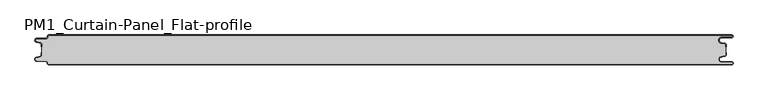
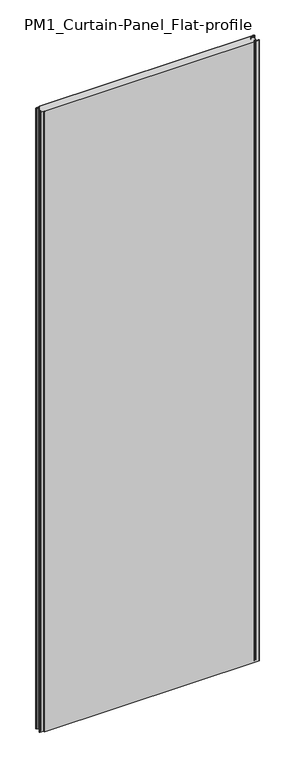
"""IFC4 building model written with IfcOpenShell, lengths in millimetres: plate geometry, PM1_Curtain-Panel_Flat-profile : ACH_PM1_Acoustic-Sectioning-Panel_50M."""

import ifcopenshell
import ifcopenshell.guid

model = None  # the IFC model being written
_history = None  # IfcOwnerHistory: only IFC2X3 demands one
_inside = {}  # id of a spatial element -> (the spatial element, [elements in it])
_under = {}  # id of a project, library or spatial element -> (it, [spatial elements below it])
_declared = {}  # id of a project -> (the project, [libraries it declares])
_typed = {}  # id of a type object -> (the type object, [elements of that type])
_made_of = {}  # id of a material, layer set ... -> (it, [elements and type objects made of it])


def new_model(schema):
    """Start an empty IFC model of exactly this schema.

    Asked for "IFC4X3", IfcOpenShell would pick the latest addendum, in which some entities
    have other attributes; the version numbers below select the first issue.
    IFC2X3 requires an IfcOwnerHistory on every rooted entity: one is made here for all.
    """
    global model, _history
    if schema == "IFC4X3":
        model = ifcopenshell.file(schema_version=(4, 3, 0, 0))
    else:
        model = ifcopenshell.file(schema=schema)
    _inside.clear()
    _under.clear()
    _declared.clear()
    _typed.clear()
    _made_of.clear()
    _history = None
    if model.schema == "IFC2X3":
        org = make("IfcOrganization", Name="unknown")
        user = make(
            "IfcPersonAndOrganization",
            ThePerson=make("IfcPerson", FamilyName="unknown"),
            TheOrganization=org,
        )
        app = make(
            "IfcApplication",
            ApplicationDeveloper=org,
            Version="unknown",
            ApplicationFullName="unknown",
            ApplicationIdentifier="unknown",
        )
        _history = make(
            "IfcOwnerHistory",
            OwningUser=user,
            OwningApplication=app,
            ChangeAction="ADDED",
            CreationDate=0,
        )
    return model


def make(cls, **values):
    """One entity of the class cls with the attributes given. An attribute that is None is left unset."""
    return model.create_entity(
        cls, **{name: value for name, value in values.items() if value is not None}
    )


def rooted(cls, **values):
    """An entity with a GlobalId (a new one), such as an element, a storey or a relation."""
    return make(cls, GlobalId=ifcopenshell.guid.new(), OwnerHistory=_history, **values)


def si_unit(unit_type, name, prefix=None):
    """IfcSIUnit, for example si_unit("LENGTHUNIT", "METRE", prefix="MILLI")."""
    return make("IfcSIUnit", UnitType=unit_type, Prefix=prefix, Name=name)


def assignment(units):
    """IfcUnitAssignment: the units of a project."""
    return None if units is None else make("IfcUnitAssignment", Units=units)


def point(xyz):
    """IfcCartesianPoint."""
    return None if xyz is None else make("IfcCartesianPoint", Coordinates=xyz)


def direction(xyz):
    """IfcDirection."""
    return None if xyz is None else make("IfcDirection", DirectionRatios=xyz)


def frame(location, z_axis=None, x_axis=None):
    """IfcAxis2Placement3D, a coordinate frame: its origin and axes. An axis left out is left unset."""
    return make(
        "IfcAxis2Placement3D",
        Location=point(location),
        Axis=direction(z_axis),
        RefDirection=direction(x_axis),
    )


def frame_2d(location, x_axis=None):
    """IfcAxis2Placement2D, a coordinate frame in the plane: its origin and x axis."""
    return make(
        "IfcAxis2Placement2D", Location=point(location), RefDirection=direction(x_axis)
    )


def origin():
    """The frame at (0, 0, 0) with its axes left unset."""
    return frame((0.0, 0.0, 0.0))


def origin_with_axes():
    """The frame at (0, 0, 0) with the z axis (0, 0, 1) and the x axis (1, 0, 0) written out."""
    return frame((0.0, 0.0, 0.0), z_axis=(0.0, 0.0, 1.0), x_axis=(1.0, 0.0, 0.0))


def place(relative_to, where):
    """IfcLocalPlacement: puts the frame where relative to a parent placement (None: the world)."""
    return make(
        "IfcLocalPlacement", PlacementRelTo=relative_to, RelativePlacement=where
    )


def context(
    kind, dimensions, precision=None, world=None, true_north=None, identifier=None
):
    """IfcGeometricRepresentationContext, for example the 3D "Model" context."""
    return make(
        "IfcGeometricRepresentationContext",
        ContextIdentifier=identifier,
        ContextType=kind,
        CoordinateSpaceDimension=dimensions,
        Precision=precision,
        WorldCoordinateSystem=world,
        TrueNorth=true_north,
    )


def project(units=None, contexts=None):
    """IfcProject with its units and contexts."""
    return rooted(
        "IfcProject",
        Name="project",
        RepresentationContexts=contexts,
        UnitsInContext=assignment(units),
    )


def spatial(cls, under=None, at=None, **own):
    """A site, building, storey or space (cls), placed at a placement, below another one or the project."""
    s = rooted(cls, ObjectPlacement=at, **own)
    if under is not None:
        _under.setdefault(under.id(), (under, []))[1].append(s)
    return s


def polyline(points):
    """IfcPolyline through the points."""
    return make("IfcPolyline", Points=[point(p) for p in points])


def circle_curve(where, radius):
    """IfcCircle in the frame where."""
    return make("IfcCircle", Position=where, Radius=radius)


def trimmed(basis, trim1, trim2, sense, master):
    """IfcTrimmedCurve: the piece of a basis curve between two trims."""
    return make(
        "IfcTrimmedCurve",
        BasisCurve=basis,
        Trim1=trim1,
        Trim2=trim2,
        SenseAgreement=sense,
        MasterRepresentation=master,
    )


def segment(curve, same_sense, transition):
    """IfcCompositeCurveSegment."""
    return make(
        "IfcCompositeCurveSegment",
        Transition=transition,
        SameSense=same_sense,
        ParentCurve=curve,
    )


def composite_curve(segments, self_intersect=None):
    """IfcCompositeCurve: segments joined end to end."""
    return make("IfcCompositeCurve", Segments=segments, SelfIntersect=self_intersect)


def outline(outer, holes=None, kind="AREA"):
    """IfcArbitraryClosedProfileDef: a profile drawn as a closed curve; with holes, ...WithVoids."""
    if holes is None:
        return make("IfcArbitraryClosedProfileDef", ProfileType=kind, OuterCurve=outer)
    return make(
        "IfcArbitraryProfileDefWithVoids",
        ProfileType=kind,
        OuterCurve=outer,
        InnerCurves=holes,
    )


def extrude(swept, where, along, depth):
    """IfcExtrudedAreaSolid: the profile swept, set in the frame where, extruded along a direction by depth."""
    return make(
        "IfcExtrudedAreaSolid",
        SweptArea=swept,
        Position=where,
        ExtrudedDirection=direction(along),
        Depth=depth,
    )


def shape(context_of_items, identifier, shape_type, items):
    """IfcShapeRepresentation: the items that make up one representation, for example the "Body"."""
    return make(
        "IfcShapeRepresentation",
        ContextOfItems=context_of_items,
        RepresentationIdentifier=identifier,
        RepresentationType=shape_type,
        Items=items,
    )


def source(mapping_origin, context_of_items, identifier, shape_type, items):
    """IfcRepresentationMap: a shape defined once, which mapped items show again and again."""
    return make(
        "IfcRepresentationMap",
        MappingOrigin=mapping_origin,
        MappedRepresentation=shape(context_of_items, identifier, shape_type, items),
    )


def transform(
    local_origin,
    x_axis=None,
    y_axis=None,
    z_axis=None,
    scale=None,
    scale2=None,
    scale3=None,
    uniform=True,
):
    """IfcCartesianTransformationOperator3D, or its non-uniform kind. x_axis, y_axis, z_axis: its Axis1, 2, 3."""
    if uniform:
        return make(
            "IfcCartesianTransformationOperator3D",
            Axis1=direction(x_axis),
            Axis2=direction(y_axis),
            LocalOrigin=point(local_origin),
            Scale=scale,
            Axis3=direction(z_axis),
        )
    return make(
        "IfcCartesianTransformationOperator3DnonUniform",
        Axis1=direction(x_axis),
        Axis2=direction(y_axis),
        LocalOrigin=point(local_origin),
        Scale=scale,
        Axis3=direction(z_axis),
        Scale2=scale2,
        Scale3=scale3,
    )


def mapped(mapping_source, mapping_target):
    """IfcMappedItem: shows the shape of a source again, moved by a transform."""
    return make(
        "IfcMappedItem", MappingSource=mapping_source, MappingTarget=mapping_target
    )


def made_of(thing, what):
    """Note that an element or type object is made of a material, layer set ...; save() writes the relation."""
    if what is not None:
        _made_of.setdefault(what.id(), (what, []))[1].append(thing)
    return thing


def element(
    cls,
    number,
    at=None,
    inside=None,
    cuts=None,
    type_object=None,
    material=None,
    context=None,
    identifier="Body",
    shape_type=None,
    held_by="IfcProductDefinitionShape",
    body=None,
    shapes=None,
    **own,
):
    """One element of the class cls, such as IfcWall. Its Tag is "e" and its number.

    at: its placement. inside: the storey or other place that contains it. cuts: it is an
    opening in that element (IfcRelVoidsElement). A single representation is given by context,
    identifier, shape_type and body (its items); several are given by shapes. held_by: the class
    of the entity that holds the representations. save() writes the other relations.
    """
    e = rooted(cls, Tag="e%d" % number, ObjectPlacement=at, **own)
    if body is not None:
        shapes = [shape(context, identifier, shape_type, body)]
    if shapes is not None:
        e.Representation = make(held_by, Representations=shapes)
    if inside is not None:
        _inside.setdefault(inside.id(), (inside, []))[1].append(e)
    if cuts is not None:
        rooted(
            "IfcRelVoidsElement", RelatingBuildingElement=cuts, RelatedOpeningElement=e
        )
    if type_object is not None:
        _typed.setdefault(type_object.id(), (type_object, []))[1].append(e)
    return made_of(e, material)


def aggregate(whole, parts):
    """IfcRelAggregates: a whole, such as a stair, and the parts it consists of."""
    return rooted("IfcRelAggregates", RelatingObject=whole, RelatedObjects=parts)


def save(model, path):
    """Write the relations noted so far, then the file.

    IfcRelAggregates (storeys below a building ...), IfcRelContainedInSpatialStructure (elements
    in a storey), IfcRelDefinesByType, IfcRelAssociatesMaterial and IfcRelDeclares: one each for
    every whole, place, type object, material and project.
    """
    for whole, parts in _under.values():
        aggregate(whole, parts)
    for where, things in _inside.values():
        rooted(
            "IfcRelContainedInSpatialStructure",
            RelatedElements=things,
            RelatingStructure=where,
        )
    for kind, things in _typed.values():
        rooted("IfcRelDefinesByType", RelatedObjects=things, RelatingType=kind)
    for what, things in _made_of.values():
        rooted("IfcRelAssociatesMaterial", RelatedObjects=things, RelatingMaterial=what)
    for by, libraries in _declared.values():
        rooted("IfcRelDeclares", RelatingContext=by, RelatedDefinitions=libraries)
    model.write(path)


def plane_surface(at):
    """IfcPlane: the flat surface through the origin of the frame at, square to its z axis."""
    return make("IfcPlane", Position=at)


def cylinder_surface(at, radius):
    """IfcCylindricalSurface: all points at the distance radius from the z axis of the frame at."""
    return make("IfcCylindricalSurface", Position=at, Radius=radius)


def revolved_surface(curve, axis_point, axis_direction):
    """IfcSurfaceOfRevolution: the curve turned about the line through axis_point along axis_direction."""
    return make(
        "IfcSurfaceOfRevolution",
        SweptCurve=make("IfcArbitraryOpenProfileDef", ProfileType="CURVE", Curve=curve),
        AxisPosition=make("IfcAxis1Placement", Location=point(axis_point), Axis=direction(axis_direction)),
    )


def advanced_brep(points, edges, surfaces, faces):
    """IfcAdvancedBrep: a solid bounded by faces that lie on surfaces and meet in shared edges.

    An edge is (start, end): straight between two places in points (the first is 0);
    or (start, end, curve); or (start, end, curve, False) where it runs against its curve.
    A face is (place in surfaces, loops), or (place, loops, False) where it looks against
    its surface's normal. A loop lists edges by number (the first is 1), with a minus sign
    where the edge is run from its end to its start. The first loop is the outer one.
    """
    corners = [point(p) for p in points]
    vertices = [make("IfcVertexPoint", VertexGeometry=c) for c in corners]
    made = []
    for start, end, *more in edges:
        made.append(
            make(
                "IfcEdgeCurve",
                EdgeStart=vertices[start],
                EdgeEnd=vertices[end],
                EdgeGeometry=more[0] if more else make("IfcPolyline", Points=[corners[start], corners[end]]),
                SameSense=more[1] if len(more) > 1 else True,
            )
        )
    hull = []
    for where, loops, *sense in faces:
        bounds = []
        for j, loop in enumerate(loops):
            ring = [make("IfcOrientedEdge", EdgeElement=made[abs(k) - 1], Orientation=k > 0) for k in loop]
            bounds.append(
                make(
                    "IfcFaceOuterBound" if j == 0 else "IfcFaceBound",
                    Bound=make("IfcEdgeLoop", EdgeList=ring),
                    Orientation=True,
                )
            )
        hull.append(make("IfcAdvancedFace", Bounds=bounds, FaceSurface=surfaces[where], SameSense=sense[0] if sense else True))
    return make("IfcAdvancedBrep", Outer=make("IfcClosedShell", CfsFaces=hull))


def pm1_curtain_panel_flat_profile_7617cffb(model_context):
    return source(origin(), model_context, "Body", "SolidModel", [
        advanced_brep(
        [(583.1, 0.0, 3500.0), (-562.4, 0.0, 3500.0), (-564.4, -2.0, 3500.0), (-564.4, -3.4, 3500.0), (-566.4, -5.4, 3500.0), (-581.9, -5.4, 3500.0), (-582.7098239, -12.5077322, 3500.0), (-576.5500979, -13.929817, 3500.0), (-575.0, -15.878557, 3500.0), (-575.0, -20.0, 3500.0), (-574.2, -20.0, 3500.0), (-574.2, -15.878557, 3500.0), (-576.370137, -13.1503208, 3500.0), (-582.529863, -11.728236, 3500.0), (-581.9, -6.2, 3500.0), (-566.4, -6.2, 3500.0), (-563.6, -3.4, 3500.0), (-563.6, -2.0, 3500.0), (-562.4, -0.8, 3500.0), (583.1, -0.8, 3500.0), (583.1, -4.2, 3500.0), (566.1, -4.2, 3500.0), (565.266489, -13.7270773, 3500.0), (571.7125666, -14.8636942, 3500.0), (573.2, -16.636348, 3500.0), (573.2, -20.0, 3500.0), (574.0, -20.0, 3500.0), (574.0, -16.636348, 3500.0), (571.8514851, -14.0758478, 3500.0), (565.4054075, -12.9392309, 3500.0), (566.1, -5.0, 3500.0), (583.1, -5.0, 3500.0), (585.6, -2.5, 3500.0), (-562.4, 0.0, 0.0), (583.1, 0.0, 0.0), (585.6, -2.5, 0.0), (583.1, -5.0, 0.0), (566.1, -5.0, 0.0), (565.4054075, -12.939231, 0.0), (571.8514851, -14.075848, 0.0), (574.0, -16.636348, 0.0), (574.0, -20.0, 0.0), (573.2, -20.0, 0.0), (573.2, -16.636348, 0.0), (571.7125666, -14.863694, 0.0), (565.266489, -13.7270771, 0.0), (566.1, -4.2, 0.0), (583.1, -4.2, 0.0), (583.1, -0.8, 0.0), (-562.4, -0.8, 0.0), (-563.6, -2.0, 0.0), (-563.6, -3.4, 0.0), (-566.4, -6.2, 0.0), (-581.9, -6.2, 0.0), (-582.529863, -11.7282362, 0.0), (-576.370137, -13.150321, 0.0), (-574.2, -15.878557, 0.0), (-574.2, -20.0, 0.0), (-575.0, -20.0, 0.0), (-575.0, -15.878557, 0.0), (-576.5500978, -13.9298169, 0.0), (-582.7098239, -12.507732, 0.0), (-581.9, -5.4, 0.0), (-566.4, -5.4, 0.0), (-564.4, -3.4, 0.0), (-564.4, -2.0, 0.0)],
        [
            (0, 1),
            (1, 2, circle_curve(frame((-562.4, -2.0, 3500.0), z_axis=(0.0, 0.0, 1.0), x_axis=(1.0, 0.0, 0.0)), 2.0)),
            (2, 3),
            (3, 4, circle_curve(frame((-566.4, -3.4, 3500.0), z_axis=(0.0, 0.0, -1.0), x_axis=(1.0, 0.0, 0.0)), 2.0)),
            (4, 5),
            (5, 6, circle_curve(frame((-581.9, -9.0, 3500.0), z_axis=(0.0, 0.0, 1.0), x_axis=(1.0, 0.0, 0.0)), 3.6)),
            (6, 7),
            (7, 8, circle_curve(frame((-577.0, -15.878557, 3500.0), z_axis=(0.0, 0.0, -1.0), x_axis=(1.0, 0.0, 0.0)), 2.0)),
            (8, 9),
            (9, 10),
            (10, 11),
            (11, 12, circle_curve(frame((-577.0, -15.878557, 3500.0), z_axis=(0.0, 0.0, 1.0), x_axis=(1.0, 0.0, 0.0)), 2.8)),
            (12, 13),
            (13, 14, circle_curve(frame((-581.9, -9.0, 3500.0), z_axis=(0.0, 0.0, -1.0), x_axis=(1.0, 0.0, 0.0)), 2.8)),
            (14, 15),
            (15, 16, circle_curve(frame((-566.4, -3.4, 3500.0), z_axis=(0.0, 0.0, 1.0), x_axis=(1.0, 0.0, 0.0)), 2.8)),
            (16, 17),
            (17, 18, circle_curve(frame((-562.4, -2.0, 3500.0), z_axis=(0.0, 0.0, -1.0), x_axis=(1.0, 0.0, 0.0)), 1.2)),
            (18, 19),
            (19, 20, circle_curve(frame((583.1, -2.5, 3500.0), z_axis=(0.0, 0.0, -1.0), x_axis=(1.0, 0.0, 0.0)), 1.7)),
            (20, 21),
            (21, 22, circle_curve(frame((566.1, -9.0, 3500.0), z_axis=(0.0, 0.0, 1.0), x_axis=(1.0, 0.0, 0.0)), 4.8)),
            (22, 23),
            (23, 24, circle_curve(frame((571.4, -16.636348, 3500.0), z_axis=(0.0, 0.0, -1.0), x_axis=(1.0, 0.0, 0.0)), 1.8)),
            (24, 25),
            (25, 26),
            (26, 27),
            (27, 28, circle_curve(frame((571.4, -16.636348, 3500.0), z_axis=(0.0, 0.0, 1.0), x_axis=(1.0, 0.0, 0.0)), 2.6)),
            (28, 29),
            (29, 30, circle_curve(frame((566.1, -9.0, 3500.0), z_axis=(0.0, 0.0, -1.0), x_axis=(1.0, 0.0, 0.0)), 4.0)),
            (30, 31),
            (31, 32, circle_curve(frame((583.1, -2.5, 3500.0), z_axis=(0.0, 0.0, 1.0), x_axis=(1.0, 0.0, 0.0)), 2.5)),
            (32, 0, circle_curve(frame((583.1, -2.5, 3500.0), z_axis=(0.0, 0.0, 1.0), x_axis=(1.0, 0.0, 0.0)), 2.5)),
            (33, 34),
            (34, 35, circle_curve(frame((583.1, -2.5, 0.0), z_axis=(0.0, 0.0, -1.0), x_axis=(1.0, 0.0, 0.0)), 2.5)),
            (35, 36, circle_curve(frame((583.1, -2.5, 0.0), z_axis=(0.0, 0.0, -1.0), x_axis=(1.0, 0.0, 0.0)), 2.5)),
            (36, 37),
            (37, 38, circle_curve(frame((566.1, -9.0, 0.0), z_axis=(0.0, 0.0, 1.0), x_axis=(1.0, 0.0, 0.0)), 4.0)),
            (38, 39),
            (39, 40, circle_curve(frame((571.4, -16.636348, 0.0), z_axis=(0.0, 0.0, -1.0), x_axis=(1.0, 0.0, 0.0)), 2.6)),
            (40, 41),
            (41, 42),
            (42, 43),
            (43, 44, circle_curve(frame((571.4, -16.636348, 0.0), z_axis=(0.0, 0.0, 1.0), x_axis=(1.0, 0.0, 0.0)), 1.8)),
            (44, 45),
            (45, 46, circle_curve(frame((566.1, -9.0, 0.0), z_axis=(0.0, 0.0, -1.0), x_axis=(1.0, 0.0, 0.0)), 4.8)),
            (46, 47),
            (47, 48, circle_curve(frame((583.1, -2.5, 0.0), z_axis=(0.0, 0.0, 1.0), x_axis=(1.0, 0.0, 0.0)), 1.7)),
            (48, 49),
            (49, 50, circle_curve(frame((-562.4, -2.0, 0.0), z_axis=(0.0, 0.0, 1.0), x_axis=(1.0, 0.0, 0.0)), 1.2)),
            (50, 51),
            (51, 52, circle_curve(frame((-566.4, -3.4, 0.0), z_axis=(0.0, 0.0, -1.0), x_axis=(1.0, 0.0, 0.0)), 2.8)),
            (52, 53),
            (53, 54, circle_curve(frame((-581.9, -9.0, 0.0), z_axis=(0.0, 0.0, 1.0), x_axis=(1.0, 0.0, 0.0)), 2.8)),
            (54, 55),
            (55, 56, circle_curve(frame((-577.0, -15.878557, 0.0), z_axis=(0.0, 0.0, -1.0), x_axis=(1.0, 0.0, 0.0)), 2.8)),
            (56, 57),
            (57, 58),
            (58, 59),
            (59, 60, circle_curve(frame((-577.0, -15.878557, 0.0), z_axis=(0.0, 0.0, 1.0), x_axis=(1.0, 0.0, 0.0)), 2.0)),
            (60, 61),
            (61, 62, circle_curve(frame((-581.9, -9.0, 0.0), z_axis=(0.0, 0.0, -1.0), x_axis=(1.0, 0.0, 0.0)), 3.6)),
            (62, 63),
            (63, 64, circle_curve(frame((-566.4, -3.4, 0.0), z_axis=(0.0, 0.0, 1.0), x_axis=(1.0, 0.0, 0.0)), 2.0)),
            (64, 65),
            (65, 33, circle_curve(frame((-562.4, -2.0, 0.0), z_axis=(0.0, 0.0, -1.0), x_axis=(1.0, 0.0, 0.0)), 2.0)),
            (1, 33),
            (65, 2),
            (64, 3),
            (63, 4),
            (62, 5),
            (61, 6),
            (60, 7),
            (59, 8),
            (58, 9),
            (57, 10),
            (56, 11),
            (55, 12),
            (54, 13),
            (53, 14),
            (52, 15),
            (51, 16),
            (50, 17),
            (49, 18),
            (48, 19),
            (47, 20),
            (46, 21),
            (45, 22),
            (44, 23),
            (43, 24),
            (42, 25),
            (41, 26),
            (40, 27),
            (39, 28),
            (38, 29),
            (37, 30),
            (36, 31),
            (34, 0),
        ],
        [
            plane_surface(frame((-575.0, 0.0, 3500.0), z_axis=(0.0, 0.0, 1.0), x_axis=(0.0, 1.0, 0.0))),
            plane_surface(frame((-575.0, 0.0, 0.0), z_axis=(0.0, 0.0, -1.0), x_axis=(0.0, 1.0, 0.0))),
            cylinder_surface(frame((-562.4, -2.0, 3500.0), z_axis=(0.0, 0.0, 1.0), x_axis=(1.0, 0.0, 0.0)), 2.0),
            plane_surface(frame((-564.4, -2.0, 3500.0), z_axis=(-1.0, 0.0, 0.0), x_axis=(0.0, 0.0, -1.0))),
            revolved_surface(polyline([(-564.4, -3.4, 0.0), (-564.4, -3.4, 3500.0)]), (-566.4, -3.4, 3500.0), (0.0, 0.0, -1.0)),
            plane_surface(frame((-566.4, -5.4, 3500.0), z_axis=(0.0, 1.0, 0.0), x_axis=(0.0, 0.0, -1.0))),
            cylinder_surface(frame((-581.9, -9.0, 3500.0), z_axis=(0.0, 0.0, 1.0), x_axis=(1.0, 0.0, 0.0)), 3.6),
            plane_surface(frame((-582.7098239, -12.507732, 3500.0), z_axis=(-0.2249510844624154, -0.9743700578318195, 0.0), x_axis=(0.0, 0.0, -1.0))),
            revolved_surface(polyline([(-575.0, -15.878557, 0.0), (-575.0, -15.878557, 3500.0)]), (-577.0, -15.878557, 3500.0), (0.0, 0.0, -1.0)),
            plane_surface(frame((-575.0, -15.878557, 3500.0), z_axis=(-1.0, 0.0, 0.0), x_axis=(0.0, 0.0, -1.0))),
            plane_surface(frame((-575.0, -20.0, 3500.0), z_axis=(0.0, -1.0, 0.0), x_axis=(0.0, 0.0, -1.0))),
            plane_surface(frame((-574.2, -20.0, 3500.0), z_axis=(1.0, 0.0, 0.0), x_axis=(0.0, 0.0, -1.0))),
            cylinder_surface(frame((-577.0, -15.878557, 3500.0), z_axis=(0.0, 0.0, 1.0), x_axis=(1.0, 0.0, 0.0)), 2.8),
            plane_surface(frame((-576.370137, -13.150321, 3500.0), z_axis=(0.22495108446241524, 0.9743700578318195, 0.0), x_axis=(0.0, 0.0, -1.0))),
            revolved_surface(polyline([(-579.1, -9.0, 0.0), (-579.1, -9.0, 3500.0)]), (-581.9, -9.0, 3500.0), (0.0, 0.0, -1.0)),
            plane_surface(frame((-581.9, -6.2, 3500.0), z_axis=(0.0, -1.0, 0.0), x_axis=(0.0, 0.0, -1.0))),
            cylinder_surface(frame((-566.4, -3.4, 3500.0), z_axis=(0.0, 0.0, 1.0), x_axis=(1.0, 0.0, 0.0)), 2.8),
            plane_surface(frame((-563.6, -3.4, 3500.0), z_axis=(1.0, 0.0, 0.0), x_axis=(0.0, 0.0, -1.0))),
            revolved_surface(polyline([(-561.1999999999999, -2.0, 0.0), (-561.1999999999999, -2.0, 3500.0)]), (-562.4, -2.0, 3500.0), (0.0, 0.0, -1.0)),
            plane_surface(frame((560.890897, -0.8, 3500.0), z_axis=(0.0, -1.0, 0.0), x_axis=(0.0, 0.0, -1.0))),
            revolved_surface(polyline([(584.8000000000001, -2.5, 0.0), (584.8000000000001, -2.5, 3500.0)]), (583.1, -2.5, 3500.0), (0.0, 0.0, -1.0)),
            plane_surface(frame((583.1, -4.2, 3500.0), z_axis=(0.0, 1.0, 0.0), x_axis=(0.0, 0.0, -1.0))),
            cylinder_surface(frame((566.1, -9.0, 3500.0), z_axis=(0.0, 0.0, 1.0), x_axis=(1.0, 0.0, 0.0)), 4.8),
            plane_surface(frame((565.266489, -13.7270771, 3500.0), z_axis=(-0.1736481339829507, -0.9848077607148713, 0.0), x_axis=(0.0, 0.0, -1.0))),
            revolved_surface(polyline([(573.1999999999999, -16.636348, 0.0), (573.1999999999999, -16.636348, 3500.0)]), (571.4, -16.636348, 3500.0), (0.0, 0.0, -1.0)),
            plane_surface(frame((573.2, -16.636348, 3500.0), z_axis=(-1.0, 0.0, 0.0), x_axis=(0.0, 0.0, -1.0))),
            plane_surface(frame((573.2, -20.0, 3500.0), z_axis=(0.0, -1.0, 0.0), x_axis=(0.0, 0.0, -1.0))),
            plane_surface(frame((574.0, -20.0, 3500.0), z_axis=(1.0, 0.0, 0.0), x_axis=(0.0, 0.0, -1.0))),
            cylinder_surface(frame((571.4, -16.636348, 3500.0), z_axis=(0.0, 0.0, 1.0), x_axis=(1.0, 0.0, 0.0)), 2.6),
            plane_surface(frame((571.8514851, -14.075848, 3500.0), z_axis=(0.17364813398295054, 0.9848077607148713, 0.0), x_axis=(0.0, 0.0, -1.0))),
            revolved_surface(polyline([(570.1, -9.0, 0.0), (570.1, -9.0, 3500.0)]), (566.1, -9.0, 3500.0), (0.0, 0.0, -1.0)),
            plane_surface(frame((566.1, -5.0, 3500.0), z_axis=(0.0, -1.0, 0.0), x_axis=(0.0, 0.0, -1.0))),
            cylinder_surface(frame((583.1, -2.5, 3500.0), z_axis=(0.0, 0.0, 1.0), x_axis=(1.0, 0.0, 0.0)), 2.5),
            plane_surface(frame((510.5961529, 0.0, 3500.0), z_axis=(0.0, 1.0, 0.0), x_axis=(0.0, 0.0, -1.0))),
        ],
        [
            (0, [[1, 2, 3, 4, 5, 6, 7, 8, 9, 10, 11, 12, 13, 14, 15, 16, 17, 18, 19, 20, 21, 22, 23, 24, 25, 26, 27, 28, 29, 30, 31, 32, 33]]),
            (1, [[34, 35, 36, 37, 38, 39, 40, 41, 42, 43, 44, 45, 46, 47, 48, 49, 50, 51, 52, 53, 54, 55, 56, 57, 58, 59, 60, 61, 62, 63, 64, 65, 66]]),
            (2, [[-2, 67, -66, 68]]),
            (3, [[-3, -68, -65, 69]]),
            (4, [[-4, -69, -64, 70]]),
            (5, [[-5, -70, -63, 71]]),
            (6, [[-6, -71, -62, 72]]),
            (7, [[-7, -72, -61, 73]]),
            (8, [[-8, -73, -60, 74]]),
            (9, [[-9, -74, -59, 75]]),
            (10, [[-10, -75, -58, 76]]),
            (11, [[-11, -76, -57, 77]]),
            (12, [[-12, -77, -56, 78]]),
            (13, [[-13, -78, -55, 79]]),
            (14, [[-14, -79, -54, 80]]),
            (15, [[-15, -80, -53, 81]]),
            (16, [[-16, -81, -52, 82]]),
            (17, [[-17, -82, -51, 83]]),
            (18, [[-18, -83, -50, 84]]),
            (19, [[-19, -84, -49, 85]]),
            (20, [[-20, -85, -48, 86]]),
            (21, [[-21, -86, -47, 87]]),
            (22, [[-22, -87, -46, 88]]),
            (23, [[-23, -88, -45, 89]]),
            (24, [[-24, -89, -44, 90]]),
            (25, [[-25, -90, -43, 91]]),
            (26, [[-26, -91, -42, 92]]),
            (27, [[-27, -92, -41, 93]]),
            (28, [[-28, -93, -40, 94]]),
            (29, [[-29, -94, -39, 95]]),
            (30, [[-30, -95, -38, 96]]),
            (31, [[-31, -96, -37, 97]]),
            (32, [[-97, -36, -35, 98, -33, -32]]),
            (33, [[-1, -98, -34, -67]]),
        ],
    ),
        extrude(outline(composite_curve([segment(polyline([(-574.2, -34.1214426), (-574.2, -15.8785573)]), True, "CONTINUOUS"), segment(trimmed(circle_curve(frame_2d((-577.0, -15.8785573)), 2.8), [point((-574.2, -15.8785573))], [point((-576.370137, -13.1503212))], True, "CARTESIAN"), True, "CONTINUOUS"), segment(polyline([(-576.370137, -13.1503212), (-582.5298631, -11.7282362)]), True, "CONTINUOUS"), segment(trimmed(circle_curve(frame_2d((-581.9, -9.0)), 2.8), [point((-582.5298631, -11.7282362))], [point((-581.9, -6.2))], False, "CARTESIAN"), True, "CONTINUOUS"), segment(polyline([(-581.9, -6.2), (-566.4000001, -6.2)]), True, "CONTINUOUS"), segment(trimmed(circle_curve(frame_2d((-566.4000001, -3.4)), 2.8), [point((-566.4000001, -6.2))], [point((-563.6000001, -3.4))], True, "CARTESIAN"), True, "CONTINUOUS"), segment(polyline([(-563.6000001, -3.4), (-563.6000001, -2.0)]), True, "CONTINUOUS"), segment(trimmed(circle_curve(frame_2d((-562.4000001, -2.0)), 1.2), [point((-563.6000001, -2.0))], [point((-562.4000001, -0.8))], False, "CARTESIAN"), True, "CONTINUOUS"), segment(polyline([(-562.4000001, -0.8), (583.1, -0.8)]), True, "CONTINUOUS"), segment(trimmed(circle_curve(frame_2d((583.1, -2.5)), 1.7), [point((583.1, -0.8))], [point((583.1, -4.2))], False, "CARTESIAN"), True, "CONTINUOUS"), segment(polyline([(583.1, -4.2), (566.1, -4.2)]), True, "CONTINUOUS"), segment(trimmed(circle_curve(frame_2d((566.1, -9.0)), 4.8), [point((566.1, -4.2))], [point((565.2664883, -13.7270771))], True, "CARTESIAN"), True, "CONTINUOUS"), segment(polyline([(565.2664883, -13.7270771), (571.7125668, -14.8636953)]), True, "CONTINUOUS"), segment(trimmed(circle_curve(frame_2d((571.4, -16.6363492)), 1.8), [point((571.7125668, -14.8636953))], [point((573.2, -16.6363492))], False, "CARTESIAN"), True, "CONTINUOUS"), segment(polyline([(573.2, -16.6363492), (573.2, -33.3636508)]), True, "CONTINUOUS"), segment(trimmed(circle_curve(frame_2d((571.4, -33.3636508)), 1.8), [point((573.2, -33.3636508))], [point((571.7125668, -35.1363047))], False, "CARTESIAN"), True, "CONTINUOUS"), segment(polyline([(571.7125668, -35.1363047), (565.2664883, -36.2729229)]), True, "CONTINUOUS"), segment(trimmed(circle_curve(frame_2d((566.1, -41.0)), 4.8), [point((565.2664883, -36.2729229))], [point((566.1, -45.8))], True, "CARTESIAN"), True, "CONTINUOUS"), segment(polyline([(566.1, -45.8), (583.1, -45.8)]), True, "CONTINUOUS"), segment(trimmed(circle_curve(frame_2d((583.1, -47.5)), 1.7), [point((583.1, -45.8))], [point((583.1, -49.2))], False, "CARTESIAN"), True, "CONTINUOUS"), segment(polyline([(583.1, -49.2), (-562.4000001, -49.2)]), True, "CONTINUOUS"), segment(trimmed(circle_curve(frame_2d((-562.4000001, -48.0)), 1.2), [point((-562.4000001, -49.2))], [point((-563.6000001, -48.0))], False, "CARTESIAN"), True, "CONTINUOUS"), segment(polyline([(-563.6000001, -48.0), (-563.6000001, -46.6)]), True, "CONTINUOUS"), segment(trimmed(circle_curve(frame_2d((-566.4000001, -46.6)), 2.8), [point((-563.6000001, -46.6))], [point((-566.4000001, -43.8))], True, "CARTESIAN"), True, "CONTINUOUS"), segment(polyline([(-566.4000001, -43.8), (-581.9, -43.8)]), True, "CONTINUOUS"), segment(trimmed(circle_curve(frame_2d((-581.9, -41.0)), 2.8), [point((-581.9, -43.8))], [point((-582.5298631, -38.2717638))], False, "CARTESIAN"), True, "CONTINUOUS"), segment(polyline([(-582.5298631, -38.2717638), (-576.370137, -36.8496788)]), True, "CONTINUOUS"), segment(trimmed(circle_curve(frame_2d((-577.0, -34.1214426)), 2.8), [point((-576.370137, -36.8496788))], [point((-574.2, -34.1214426))], True, "CARTESIAN"), True, "CONTINUOUS")], self_intersect=False)), origin_with_axes(), (0.0, 0.0, 1.0), 3500.0),
        advanced_brep(
        [(-562.4, -50.0, 3500.0), (583.1, -50.0, 3500.0), (585.6, -47.5, 3500.0), (583.1, -45.0, 3500.0), (566.1, -45.0, 3500.0), (565.4054075, -37.060769, 3500.0), (571.8514851, -35.924152, 3500.0), (574.0, -33.363652, 3500.0), (574.0, -30.0, 3500.0), (573.2, -30.0, 3500.0), (573.2, -33.363652, 3500.0), (571.7125666, -35.136306, 3500.0), (565.266489, -36.2729229, 3500.0), (566.1, -45.8, 3500.0), (583.1, -45.8, 3500.0), (583.1, -49.2, 3500.0), (-562.4, -49.2, 3500.0), (-563.6, -48.0, 3500.0), (-563.6, -46.6, 3500.0), (-566.4, -43.8, 3500.0), (-581.9, -43.8, 3500.0), (-582.529863, -38.2717638, 3500.0), (-576.370137, -36.849679, 3500.0), (-574.2, -34.121443, 3500.0), (-574.2, -30.0, 3500.0), (-575.0, -30.0, 3500.0), (-575.0, -34.121443, 3500.0), (-576.5500978, -36.0701831, 3500.0), (-582.7098239, -37.492268, 3500.0), (-581.9, -44.6, 3500.0), (-566.4, -44.6, 3500.0), (-564.4, -46.6, 3500.0), (-564.4, -48.0, 3500.0), (583.1, -50.0, 0.0), (-562.4, -50.0, 0.0), (-564.4, -48.0, 0.0), (-564.4, -46.6, 0.0), (-566.4, -44.6, 0.0), (-581.9, -44.6, 0.0), (-582.7098239, -37.4922678, 0.0), (-576.5500979, -36.070183, 0.0), (-575.0, -34.121443, 0.0), (-575.0, -30.0, 0.0), (-574.2, -30.0, 0.0), (-574.2, -34.121443, 0.0), (-576.370137, -36.8496792, 0.0), (-582.529863, -38.271764, 0.0), (-581.9, -43.8, 0.0), (-566.4, -43.8, 0.0), (-563.6, -46.6, 0.0), (-563.6, -48.0, 0.0), (-562.4, -49.2, 0.0), (583.1, -49.2, 0.0), (583.1, -45.8, 0.0), (566.1, -45.8, 0.0), (565.266489, -36.2729227, 0.0), (571.7125666, -35.1363058, 0.0), (573.2, -33.363652, 0.0), (573.2, -30.0, 0.0), (574.0, -30.0, 0.0), (574.0, -33.363652, 0.0), (571.8514851, -35.9241522, 0.0), (565.4054075, -37.0607691, 0.0), (566.1, -45.0, 0.0), (583.1, -45.0, 0.0), (585.6, -47.5, 0.0)],
        [
            (0, 1),
            (1, 2, circle_curve(frame((583.1, -47.5, 3500.0), z_axis=(0.0, 0.0, 1.0), x_axis=(1.0, 0.0, 0.0)), 2.5)),
            (2, 3, circle_curve(frame((583.1, -47.5, 3500.0), z_axis=(0.0, 0.0, 1.0), x_axis=(1.0, 0.0, 0.0)), 2.5)),
            (3, 4),
            (4, 5, circle_curve(frame((566.1, -41.0, 3500.0), z_axis=(0.0, 0.0, -1.0), x_axis=(1.0, 0.0, 0.0)), 4.0)),
            (5, 6),
            (6, 7, circle_curve(frame((571.4, -33.363652, 3500.0), z_axis=(0.0, 0.0, 1.0), x_axis=(1.0, 0.0, 0.0)), 2.6)),
            (7, 8),
            (8, 9),
            (9, 10),
            (10, 11, circle_curve(frame((571.4, -33.363652, 3500.0), z_axis=(0.0, 0.0, -1.0), x_axis=(1.0, 0.0, 0.0)), 1.8)),
            (11, 12),
            (12, 13, circle_curve(frame((566.1, -41.0, 3500.0), z_axis=(0.0, 0.0, 1.0), x_axis=(1.0, 0.0, 0.0)), 4.8)),
            (13, 14),
            (14, 15, circle_curve(frame((583.1, -47.5, 3500.0), z_axis=(0.0, 0.0, -1.0), x_axis=(1.0, 0.0, 0.0)), 1.7)),
            (15, 16),
            (16, 17, circle_curve(frame((-562.4, -48.0, 3500.0), z_axis=(0.0, 0.0, -1.0), x_axis=(1.0, 0.0, 0.0)), 1.2)),
            (17, 18),
            (18, 19, circle_curve(frame((-566.4, -46.6, 3500.0), z_axis=(0.0, 0.0, 1.0), x_axis=(1.0, 0.0, 0.0)), 2.8)),
            (19, 20),
            (20, 21, circle_curve(frame((-581.9, -41.0, 3500.0), z_axis=(0.0, 0.0, -1.0), x_axis=(1.0, 0.0, 0.0)), 2.8)),
            (21, 22),
            (22, 23, circle_curve(frame((-577.0, -34.121443, 3500.0), z_axis=(0.0, 0.0, 1.0), x_axis=(1.0, 0.0, 0.0)), 2.8)),
            (23, 24),
            (24, 25),
            (25, 26),
            (26, 27, circle_curve(frame((-577.0, -34.121443, 3500.0), z_axis=(0.0, 0.0, -1.0), x_axis=(1.0, 0.0, 0.0)), 2.0)),
            (27, 28),
            (28, 29, circle_curve(frame((-581.9, -41.0, 3500.0), z_axis=(0.0, 0.0, 1.0), x_axis=(1.0, 0.0, 0.0)), 3.6)),
            (29, 30),
            (30, 31, circle_curve(frame((-566.4, -46.6, 3500.0), z_axis=(0.0, 0.0, -1.0), x_axis=(1.0, 0.0, 0.0)), 2.0)),
            (31, 32),
            (32, 0, circle_curve(frame((-562.4, -48.0, 3500.0), z_axis=(0.0, 0.0, 1.0), x_axis=(1.0, 0.0, 0.0)), 2.0)),
            (33, 34),
            (34, 35, circle_curve(frame((-562.4, -48.0, 0.0), z_axis=(0.0, 0.0, -1.0), x_axis=(1.0, 0.0, 0.0)), 2.0)),
            (35, 36),
            (36, 37, circle_curve(frame((-566.4, -46.6, 0.0), z_axis=(0.0, 0.0, 1.0), x_axis=(1.0, 0.0, 0.0)), 2.0)),
            (37, 38),
            (38, 39, circle_curve(frame((-581.9, -41.0, 0.0), z_axis=(0.0, 0.0, -1.0), x_axis=(1.0, 0.0, 0.0)), 3.6)),
            (39, 40),
            (40, 41, circle_curve(frame((-577.0, -34.121443, 0.0), z_axis=(0.0, 0.0, 1.0), x_axis=(1.0, 0.0, 0.0)), 2.0)),
            (41, 42),
            (42, 43),
            (43, 44),
            (44, 45, circle_curve(frame((-577.0, -34.121443, 0.0), z_axis=(0.0, 0.0, -1.0), x_axis=(1.0, 0.0, 0.0)), 2.8)),
            (45, 46),
            (46, 47, circle_curve(frame((-581.9, -41.0, 0.0), z_axis=(0.0, 0.0, 1.0), x_axis=(1.0, 0.0, 0.0)), 2.8)),
            (47, 48),
            (48, 49, circle_curve(frame((-566.4, -46.6, 0.0), z_axis=(0.0, 0.0, -1.0), x_axis=(1.0, 0.0, 0.0)), 2.8)),
            (49, 50),
            (50, 51, circle_curve(frame((-562.4, -48.0, 0.0), z_axis=(0.0, 0.0, 1.0), x_axis=(1.0, 0.0, 0.0)), 1.2)),
            (51, 52),
            (52, 53, circle_curve(frame((583.1, -47.5, 0.0), z_axis=(0.0, 0.0, 1.0), x_axis=(1.0, 0.0, 0.0)), 1.7)),
            (53, 54),
            (54, 55, circle_curve(frame((566.1, -41.0, 0.0), z_axis=(0.0, 0.0, -1.0), x_axis=(1.0, 0.0, 0.0)), 4.8)),
            (55, 56),
            (56, 57, circle_curve(frame((571.4, -33.363652, 0.0), z_axis=(0.0, 0.0, 1.0), x_axis=(1.0, 0.0, 0.0)), 1.8)),
            (57, 58),
            (58, 59),
            (59, 60),
            (60, 61, circle_curve(frame((571.4, -33.363652, 0.0), z_axis=(0.0, 0.0, -1.0), x_axis=(1.0, 0.0, 0.0)), 2.6)),
            (61, 62),
            (62, 63, circle_curve(frame((566.1, -41.0, 0.0), z_axis=(0.0, 0.0, 1.0), x_axis=(1.0, 0.0, 0.0)), 4.0)),
            (63, 64),
            (64, 65, circle_curve(frame((583.1, -47.5, 0.0), z_axis=(0.0, 0.0, -1.0), x_axis=(1.0, 0.0, 0.0)), 2.5)),
            (65, 33, circle_curve(frame((583.1, -47.5, 0.0), z_axis=(0.0, 0.0, -1.0), x_axis=(1.0, 0.0, 0.0)), 2.5)),
            (0, 34),
            (33, 1),
            (64, 3),
            (63, 4),
            (62, 5),
            (61, 6),
            (60, 7),
            (59, 8),
            (58, 9),
            (57, 10),
            (56, 11),
            (55, 12),
            (54, 13),
            (53, 14),
            (52, 15),
            (51, 16),
            (50, 17),
            (49, 18),
            (48, 19),
            (47, 20),
            (46, 21),
            (45, 22),
            (44, 23),
            (43, 24),
            (42, 25),
            (41, 26),
            (40, 27),
            (39, 28),
            (38, 29),
            (37, 30),
            (36, 31),
            (35, 32),
        ],
        [
            plane_surface(frame((-575.0, -50.0, 3500.0), z_axis=(0.0, 0.0, 1.0), x_axis=(0.0, 1.0, 0.0))),
            plane_surface(frame((-575.0, -50.0, 0.0), z_axis=(0.0, 0.0, -1.0), x_axis=(0.0, 1.0, 0.0))),
            plane_surface(frame((560.890897, -50.0, 3500.0), z_axis=(0.0, -1.0, 0.0), x_axis=(0.0, 0.0, -1.0))),
            cylinder_surface(frame((583.1, -47.5, 3500.0), z_axis=(0.0, 0.0, 1.0), x_axis=(1.0, 0.0, 0.0)), 2.5),
            plane_surface(frame((583.1, -45.0, 3500.0), z_axis=(0.0, 1.0, 0.0), x_axis=(0.0, 0.0, -1.0))),
            revolved_surface(polyline([(570.1, -41.0, 0.0), (570.1, -41.0, 3500.0)]), (566.1, -41.0, 3500.0), (0.0, 0.0, -1.0)),
            plane_surface(frame((565.4054075, -37.0607691, 3500.0), z_axis=(0.17364813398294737, -0.9848077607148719, 0.0), x_axis=(0.0, 0.0, -1.0))),
            cylinder_surface(frame((571.4, -33.363652, 3500.0), z_axis=(0.0, 0.0, 1.0), x_axis=(1.0, 0.0, 0.0)), 2.6),
            plane_surface(frame((574.0, -33.363652, 3500.0), z_axis=(1.0, 0.0, 0.0), x_axis=(0.0, 0.0, -1.0))),
            plane_surface(frame((574.0, -30.0, 3500.0), z_axis=(0.0, 1.0, 0.0), x_axis=(0.0, 0.0, -1.0))),
            plane_surface(frame((573.2, -30.0, 3500.0), z_axis=(-1.0, 0.0, 0.0), x_axis=(0.0, 0.0, -1.0))),
            revolved_surface(polyline([(573.1999999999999, -33.363652, 0.0), (573.1999999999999, -33.363652, 3500.0)]), (571.4, -33.363652, 3500.0), (0.0, 0.0, -1.0)),
            plane_surface(frame((571.7125666, -35.1363058, 3500.0), z_axis=(-0.17364813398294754, 0.9848077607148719, 0.0), x_axis=(0.0, 0.0, -1.0))),
            cylinder_surface(frame((566.1, -41.0, 3500.0), z_axis=(0.0, 0.0, 1.0), x_axis=(1.0, 0.0, 0.0)), 4.8),
            plane_surface(frame((566.1, -45.8, 3500.0), z_axis=(0.0, -1.0, 0.0), x_axis=(0.0, 0.0, -1.0))),
            revolved_surface(polyline([(584.8000000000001, -47.5, 0.0), (584.8000000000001, -47.5, 3500.0)]), (583.1, -47.5, 3500.0), (0.0, 0.0, -1.0)),
            plane_surface(frame((510.8105122, -49.2, 3500.0), z_axis=(0.0, 1.0, 0.0), x_axis=(0.0, 0.0, -1.0))),
            revolved_surface(polyline([(-561.1999999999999, -48.0, 0.0), (-561.1999999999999, -48.0, 3500.0)]), (-562.4, -48.0, 3500.0), (0.0, 0.0, -1.0)),
            plane_surface(frame((-563.6, -48.0, 3500.0), z_axis=(1.0, 0.0, 0.0), x_axis=(0.0, 0.0, -1.0))),
            cylinder_surface(frame((-566.4, -46.6, 3500.0), z_axis=(0.0, 0.0, 1.0), x_axis=(1.0, 0.0, 0.0)), 2.8),
            plane_surface(frame((-566.4, -43.8, 3500.0), z_axis=(0.0, 1.0, 0.0), x_axis=(0.0, 0.0, -1.0))),
            revolved_surface(polyline([(-579.1, -41.0, 0.0), (-579.1, -41.0, 3500.0)]), (-581.9, -41.0, 3500.0), (0.0, 0.0, -1.0)),
            plane_surface(frame((-582.529863, -38.271764, 3500.0), z_axis=(0.2249510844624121, -0.9743700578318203, 0.0), x_axis=(0.0, 0.0, -1.0))),
            cylinder_surface(frame((-577.0, -34.121443, 3500.0), z_axis=(0.0, 0.0, 1.0), x_axis=(1.0, 0.0, 0.0)), 2.8),
            plane_surface(frame((-574.2, -34.121443, 3500.0), z_axis=(1.0, 0.0, 0.0), x_axis=(0.0, 0.0, -1.0))),
            plane_surface(frame((-574.2, -30.0, 3500.0), z_axis=(0.0, 1.0, 0.0), x_axis=(0.0, 0.0, -1.0))),
            plane_surface(frame((-575.0, -30.0, 3500.0), z_axis=(-1.0, 0.0, 0.0), x_axis=(0.0, 0.0, -1.0))),
            revolved_surface(polyline([(-575.0, -34.121443, 0.0), (-575.0, -34.121443, 3500.0)]), (-577.0, -34.121443, 3500.0), (0.0, 0.0, -1.0)),
            plane_surface(frame((-576.5500979, -36.070183, 3500.0), z_axis=(-0.22495108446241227, 0.9743700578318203, 0.0), x_axis=(0.0, 0.0, -1.0))),
            cylinder_surface(frame((-581.9, -41.0, 3500.0), z_axis=(0.0, 0.0, 1.0), x_axis=(1.0, 0.0, 0.0)), 3.6),
            plane_surface(frame((-581.9, -44.6, 3500.0), z_axis=(0.0, -1.0, 0.0), x_axis=(0.0, 0.0, -1.0))),
            revolved_surface(polyline([(-564.4, -46.6, 0.0), (-564.4, -46.6, 3500.0)]), (-566.4, -46.6, 3500.0), (0.0, 0.0, -1.0)),
            plane_surface(frame((-564.4, -46.6, 3500.0), z_axis=(-1.0, 0.0, 0.0), x_axis=(0.0, 0.0, -1.0))),
            cylinder_surface(frame((-562.4, -48.0, 3500.0), z_axis=(0.0, 0.0, 1.0), x_axis=(1.0, 0.0, 0.0)), 2.0),
        ],
        [
            (0, [[1, 2, 3, 4, 5, 6, 7, 8, 9, 10, 11, 12, 13, 14, 15, 16, 17, 18, 19, 20, 21, 22, 23, 24, 25, 26, 27, 28, 29, 30, 31, 32, 33]]),
            (1, [[34, 35, 36, 37, 38, 39, 40, 41, 42, 43, 44, 45, 46, 47, 48, 49, 50, 51, 52, 53, 54, 55, 56, 57, 58, 59, 60, 61, 62, 63, 64, 65, 66]]),
            (2, [[-1, 67, -34, 68]]),
            (3, [[-68, -66, -65, 69, -3, -2]]),
            (4, [[-4, -69, -64, 70]]),
            (5, [[-5, -70, -63, 71]]),
            (6, [[-6, -71, -62, 72]]),
            (7, [[-7, -72, -61, 73]]),
            (8, [[-8, -73, -60, 74]]),
            (9, [[-9, -74, -59, 75]]),
            (10, [[-10, -75, -58, 76]]),
            (11, [[-11, -76, -57, 77]]),
            (12, [[-12, -77, -56, 78]]),
            (13, [[-13, -78, -55, 79]]),
            (14, [[-14, -79, -54, 80]]),
            (15, [[-15, -80, -53, 81]]),
            (16, [[-16, -81, -52, 82]]),
            (17, [[-17, -82, -51, 83]]),
            (18, [[-18, -83, -50, 84]]),
            (19, [[-19, -84, -49, 85]]),
            (20, [[-20, -85, -48, 86]]),
            (21, [[-21, -86, -47, 87]]),
            (22, [[-22, -87, -46, 88]]),
            (23, [[-23, -88, -45, 89]]),
            (24, [[-24, -89, -44, 90]]),
            (25, [[-25, -90, -43, 91]]),
            (26, [[-26, -91, -42, 92]]),
            (27, [[-27, -92, -41, 93]]),
            (28, [[-28, -93, -40, 94]]),
            (29, [[-29, -94, -39, 95]]),
            (30, [[-30, -95, -38, 96]]),
            (31, [[-31, -96, -37, 97]]),
            (32, [[-32, -97, -36, 98]]),
            (33, [[-33, -98, -35, -67]]),
        ],
    ),
    ])


if __name__ == "__main__":
    model = new_model("IFC4")
    model_context = context("Model", 3, world=origin())
    ifc_project = project(units=[si_unit("LENGTHUNIT", "METRE", prefix="MILLI")], contexts=[model_context])
    site = spatial("IfcSite", under=ifc_project)
    building = spatial("IfcBuilding", under=site)
    placement = place(None, origin())
    pm1_curtain_panel_flat_profile_shape = pm1_curtain_panel_flat_profile_7617cffb(model_context)
    element("IfcPlate", 1, ObjectType="PM1_Curtain-Panel_Flat-profile : ACH_PM1_Acoustic-Sectioning-Panel_50M", at=placement, inside=building, context=model_context, shape_type="MappedRepresentation", body=[
        mapped(pm1_curtain_panel_flat_profile_shape, transform((0.0, 0.0, 0.0), x_axis=(1.0, 0.0, 0.0), y_axis=(0.0, 1.0, 0.0), z_axis=(0.0, 0.0, 1.0))),
    ])
    save(model, "model.ifc")
